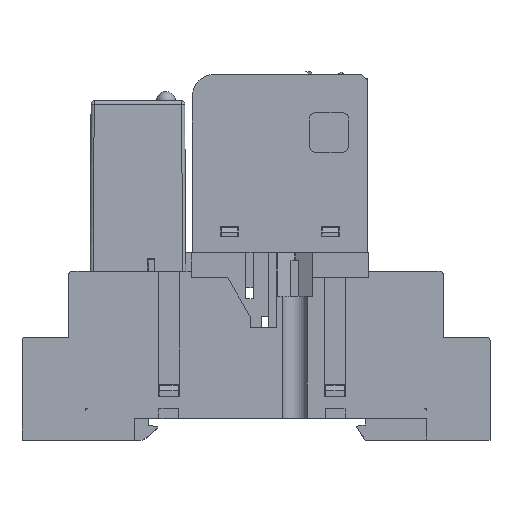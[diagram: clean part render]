
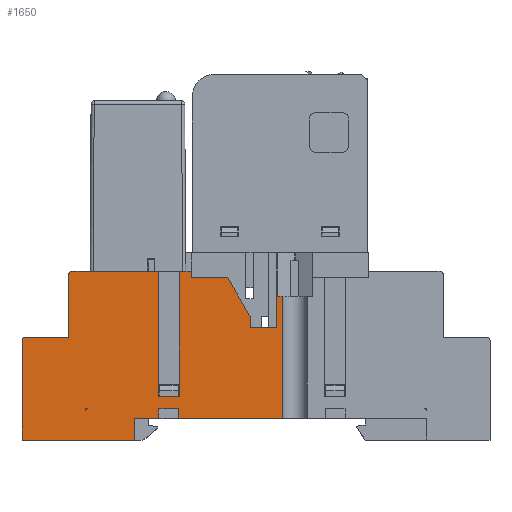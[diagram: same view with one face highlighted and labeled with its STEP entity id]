
A CAD part, top view. The second image highlights one B-rep face of the part: STEP entity #1650.
In plain terms, the highlighted planar face has unit normal (0, 0, 1).
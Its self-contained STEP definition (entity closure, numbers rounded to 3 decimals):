
#1650=ADVANCED_FACE('',(#27638,#27640),#27642,.T.);
#27638=FACE_BOUND('',#27639,.T.);
#27639=EDGE_LOOP('',(#51688,#51689,#51690,#51691,#51692,#51693,#51694,#51695,#51696,
#51697,#51698,#51699,#51700,#51701,#51702,#51703,#51704,#51705,#51706,#51707,#51708,
#51709,#51710,#51711,#51712));
#27640=FACE_BOUND('',#27641,.T.);
#27641=EDGE_LOOP('',(#51713,#51714,#51715));
#27642=PLANE('',#27643);
#27643=AXIS2_PLACEMENT_3D('',#27644,#27645,#27646);
#27644=CARTESIAN_POINT('',(-43.65,0.,15.));
#27645=DIRECTION('',(0.,0.,1.));
#27646=DIRECTION('',(1.,0.,0.));
#51688=ORIENTED_EDGE('',*,*,#67424,.T.);
#51689=ORIENTED_EDGE('',*,*,#67425,.T.);
#51690=ORIENTED_EDGE('',*,*,#67426,.T.);
#51691=ORIENTED_EDGE('',*,*,#67017,.F.);
#51692=ORIENTED_EDGE('',*,*,#67423,.F.);
#51693=ORIENTED_EDGE('',*,*,#67427,.T.);
#51694=ORIENTED_EDGE('',*,*,#67428,.T.);
#51695=ORIENTED_EDGE('',*,*,#67429,.F.);
#51696=ORIENTED_EDGE('',*,*,#67430,.F.);
#51697=ORIENTED_EDGE('',*,*,#67431,.T.);
#51698=ORIENTED_EDGE('',*,*,#67432,.T.);
#51699=ORIENTED_EDGE('',*,*,#67433,.F.);
#51700=ORIENTED_EDGE('',*,*,#67434,.T.);
#51701=ORIENTED_EDGE('',*,*,#67435,.T.);
#51702=ORIENTED_EDGE('',*,*,#67436,.T.);
#51703=ORIENTED_EDGE('',*,*,#67437,.F.);
#51704=ORIENTED_EDGE('',*,*,#67438,.T.);
#51705=ORIENTED_EDGE('',*,*,#67439,.F.);
#51706=ORIENTED_EDGE('',*,*,#67440,.T.);
#51707=ORIENTED_EDGE('',*,*,#67441,.T.);
#51708=ORIENTED_EDGE('',*,*,#67442,.T.);
#51709=ORIENTED_EDGE('',*,*,#67443,.T.);
#51710=ORIENTED_EDGE('',*,*,#67444,.T.);
#51711=ORIENTED_EDGE('',*,*,#67445,.T.);
#51712=ORIENTED_EDGE('',*,*,#67021,.F.);
#51713=ORIENTED_EDGE('',*,*,#67446,.T.);
#51714=ORIENTED_EDGE('',*,*,#67447,.T.);
#51715=ORIENTED_EDGE('',*,*,#67448,.F.);
#67017=EDGE_CURVE('',#75335,#75337,#75338,.T.);
#67021=EDGE_CURVE('',#75343,#75345,#75346,.T.);
#67423=EDGE_CURVE('',#76036,#75335,#76038,.F.);
#67424=EDGE_CURVE('',#75343,#76039,#76040,.F.);
#67425=EDGE_CURVE('',#76039,#76041,#76042,.F.);
#67426=EDGE_CURVE('',#76041,#75337,#76043,.F.);
#67427=EDGE_CURVE('',#76036,#76044,#76045,.F.);
#67428=EDGE_CURVE('',#76044,#76046,#76047,.T.);
#67429=EDGE_CURVE('',#76048,#76046,#76049,.F.);
#67430=EDGE_CURVE('',#76050,#76048,#76051,.T.);
#67431=EDGE_CURVE('',#76050,#76052,#76053,.T.);
#67432=EDGE_CURVE('',#76052,#76054,#76055,.T.);
#67433=EDGE_CURVE('',#76056,#76054,#76057,.T.);
#67434=EDGE_CURVE('',#76056,#76058,#76059,.F.);
#67435=EDGE_CURVE('',#76058,#76060,#76061,.F.);
#67436=EDGE_CURVE('',#76060,#76062,#76063,.F.);
#67437=EDGE_CURVE('',#76064,#76062,#76065,.T.);
#67438=EDGE_CURVE('',#76064,#76066,#76067,.T.);
#67439=EDGE_CURVE('',#76068,#76066,#76069,.T.);
#67440=EDGE_CURVE('',#76068,#76070,#76071,.F.);
#67441=EDGE_CURVE('',#76070,#76072,#76073,.F.);
#67442=EDGE_CURVE('',#76072,#76074,#76075,.F.);
#67443=EDGE_CURVE('',#76074,#76076,#76077,.F.);
#67444=EDGE_CURVE('',#76076,#76078,#76079,.F.);
#67445=EDGE_CURVE('',#76078,#75345,#76080,.F.);
#67446=EDGE_CURVE('',#76081,#76082,#76083,.F.);
#67447=EDGE_CURVE('',#76082,#76084,#76085,.F.);
#67448=EDGE_CURVE('',#76081,#76084,#76086,.F.);
#75335=VERTEX_POINT('',#89320);
#75337=VERTEX_POINT('',#89324);
#75338=LINE('',#89325,#89326);
#75343=VERTEX_POINT('',#89336);
#75345=VERTEX_POINT('',#89340);
#75346=LINE('',#89341,#89342);
#76036=VERTEX_POINT('',#90879);
#76038=CIRCLE('',#90883,0.5);
#76039=VERTEX_POINT('',#90887);
#76040=LINE('',#90888,#90889);
#76041=VERTEX_POINT('',#90891);
#76042=LINE('',#90892,#90893);
#76043=LINE('',#90895,#90896);
#76044=VERTEX_POINT('',#90898);
#76045=LINE('',#90899,#90900);
#76046=VERTEX_POINT('',#90902);
#76047=LINE('',#90903,#90904);
#76048=VERTEX_POINT('',#90906);
#76049=CIRCLE('',#90907,0.5);
#76050=VERTEX_POINT('',#90911);
#76051=LINE('',#90912,#90913);
#76052=VERTEX_POINT('',#90915);
#76053=LINE('',#90916,#90917);
#76054=VERTEX_POINT('',#90919);
#76055=LINE('',#90920,#90921);
#76056=VERTEX_POINT('',#90923);
#76057=LINE('',#90924,#90925);
#76058=VERTEX_POINT('',#90927);
#76059=LINE('',#90928,#90929);
#76060=VERTEX_POINT('',#90931);
#76061=LINE('',#90932,#90933);
#76062=VERTEX_POINT('',#90935);
#76063=LINE('',#90936,#90937);
#76064=VERTEX_POINT('',#90939);
#76065=LINE('',#90940,#90941);
#76066=VERTEX_POINT('',#90943);
#76067=LINE('',#90944,#90945);
#76068=VERTEX_POINT('',#90947);
#76069=LINE('',#90948,#90949);
#76070=VERTEX_POINT('',#90951);
#76071=LINE('',#90952,#90953);
#76072=VERTEX_POINT('',#90955);
#76073=LINE('',#90956,#90957);
#76074=VERTEX_POINT('',#90959);
#76075=LINE('',#90960,#90961);
#76076=VERTEX_POINT('',#90963);
#76077=LINE('',#90964,#90965);
#76078=VERTEX_POINT('',#90967);
#76079=LINE('',#90968,#90969);
#76080=LINE('',#90971,#90972);
#76081=VERTEX_POINT('',#90974);
#76082=VERTEX_POINT('',#90975);
#76083=LINE('',#90976,#90977);
#76084=VERTEX_POINT('',#90979);
#76085=LINE('',#90980,#90981);
#76086=CIRCLE('',#90983,0.3);
#89320=CARTESIAN_POINT('',(-35.65,27.,15.));
#89324=CARTESIAN_POINT('',(-21.85,27.,15.));
#89325=CARTESIAN_POINT('',(-35.65,27.,15.));
#89326=VECTOR('',#89327,1.);
#89327=DIRECTION('',(1.,0.,0.));
#89336=CARTESIAN_POINT('',(-18.45,27.,15.));
#89340=CARTESIAN_POINT('',(-16.55,27.,15.));
#89341=CARTESIAN_POINT('',(-18.45,27.,15.));
#89342=VECTOR('',#89343,1.);
#89343=DIRECTION('',(1.,0.,0.));
#90879=CARTESIAN_POINT('',(-36.15,26.5,15.));
#90883=AXIS2_PLACEMENT_3D('',#90884,#90885,#90886);
#90884=CARTESIAN_POINT('',(-35.65,26.5,15.));
#90885=DIRECTION('',(0.,-0.,1.));
#90886=DIRECTION('',(0.,1.,0.));
#90887=CARTESIAN_POINT('',(-18.45,7.,15.));
#90888=CARTESIAN_POINT('',(-18.45,7.,15.));
#90889=VECTOR('',#90890,1.);
#90890=DIRECTION('',(0.,1.,0.));
#90891=CARTESIAN_POINT('',(-21.85,7.,15.));
#90892=CARTESIAN_POINT('',(-21.85,7.,15.));
#90893=VECTOR('',#90894,1.);
#90894=DIRECTION('',(1.,0.,0.));
#90895=CARTESIAN_POINT('',(-21.85,27.,15.));
#90896=VECTOR('',#90897,1.);
#90897=DIRECTION('',(0.,-1.,0.));
#90898=CARTESIAN_POINT('',(-36.15,16.5,15.));
#90899=CARTESIAN_POINT('',(-36.15,16.5,15.));
#90900=VECTOR('',#90901,1.);
#90901=DIRECTION('',(0.,1.,0.));
#90902=CARTESIAN_POINT('',(-43.15,16.5,15.));
#90903=CARTESIAN_POINT('',(-36.15,16.5,15.));
#90904=VECTOR('',#90905,1.);
#90905=DIRECTION('',(-1.,0.,0.));
#90906=CARTESIAN_POINT('',(-43.65,16.,15.));
#90907=AXIS2_PLACEMENT_3D('',#90908,#90909,#90910);
#90908=CARTESIAN_POINT('',(-43.15,16.,15.));
#90909=DIRECTION('',(0.,-0.,1.));
#90910=DIRECTION('',(0.,1.,0.));
#90911=CARTESIAN_POINT('',(-43.65,0.,15.));
#90912=CARTESIAN_POINT('',(-43.65,0.,15.));
#90913=VECTOR('',#90914,1.);
#90914=DIRECTION('',(0.,1.,0.));
#90915=CARTESIAN_POINT('',(-25.65,0.,15.));
#90916=CARTESIAN_POINT('',(-43.65,0.,15.));
#90917=VECTOR('',#90918,1.);
#90918=DIRECTION('',(1.,0.,0.));
#90919=CARTESIAN_POINT('',(-25.65,3.5,15.));
#90920=CARTESIAN_POINT('',(-25.65,0.,15.));
#90921=VECTOR('',#90922,1.);
#90922=DIRECTION('',(0.,1.,0.));
#90923=CARTESIAN_POINT('',(-21.75,3.5,15.));
#90924=CARTESIAN_POINT('',(-21.75,3.5,15.));
#90925=VECTOR('',#90926,1.);
#90926=DIRECTION('',(-1.,0.,0.));
#90927=CARTESIAN_POINT('',(-21.75,5.,15.));
#90928=CARTESIAN_POINT('',(-21.75,5.,15.));
#90929=VECTOR('',#90930,1.);
#90930=DIRECTION('',(0.,-1.,0.));
#90931=CARTESIAN_POINT('',(-18.55,5.,15.));
#90932=CARTESIAN_POINT('',(-18.55,5.,15.));
#90933=VECTOR('',#90934,1.);
#90934=DIRECTION('',(-1.,0.,0.));
#90935=CARTESIAN_POINT('',(-18.55,3.5,15.));
#90936=CARTESIAN_POINT('',(-18.55,3.5,15.));
#90937=VECTOR('',#90938,1.);
#90938=DIRECTION('',(0.,1.,0.));
#90939=CARTESIAN_POINT('',(-2.,3.5,15.));
#90940=CARTESIAN_POINT('',(-2.,3.5,15.));
#90941=VECTOR('',#90942,1.);
#90942=DIRECTION('',(-1.,0.,0.));
#90943=CARTESIAN_POINT('',(-2.,23.,15.));
#90944=CARTESIAN_POINT('',(-2.,3.5,15.));
#90945=VECTOR('',#90946,1.);
#90946=DIRECTION('',(0.,1.,0.));
#90947=CARTESIAN_POINT('',(-2.9,23.,15.));
#90948=CARTESIAN_POINT('',(-2.9,23.,15.));
#90949=VECTOR('',#90950,1.);
#90950=DIRECTION('',(1.,0.,0.));
#90951=CARTESIAN_POINT('',(-2.9,18.,15.));
#90952=CARTESIAN_POINT('',(-2.9,18.,15.));
#90953=VECTOR('',#90954,1.);
#90954=DIRECTION('',(0.,1.,0.));
#90955=CARTESIAN_POINT('',(-7.15,18.,15.));
#90956=CARTESIAN_POINT('',(-7.15,18.,15.));
#90957=VECTOR('',#90958,1.);
#90958=DIRECTION('',(1.,0.,0.));
#90959=CARTESIAN_POINT('',(-7.15,19.8,15.));
#90960=CARTESIAN_POINT('',(-7.15,19.8,15.));
#90961=VECTOR('',#90962,1.);
#90962=DIRECTION('',(0.,-1.,0.));
#90963=CARTESIAN_POINT('',(-10.73,26.,15.));
#90964=CARTESIAN_POINT('',(-10.73,26.,15.));
#90965=VECTOR('',#90966,1.);
#90966=DIRECTION('',(0.5,-0.866,0.));
#90967=CARTESIAN_POINT('',(-16.55,26.,15.));
#90968=CARTESIAN_POINT('',(-16.55,26.,15.));
#90969=VECTOR('',#90970,1.);
#90970=DIRECTION('',(1.,0.,0.));
#90971=CARTESIAN_POINT('',(-16.55,27.,15.));
#90972=VECTOR('',#90973,1.);
#90973=DIRECTION('',(0.,-1.,0.));
#90974=CARTESIAN_POINT('',(-33.45,4.7,15.));
#90975=CARTESIAN_POINT('',(-33.45,5.,15.));
#90976=CARTESIAN_POINT('',(-33.45,5.,15.));
#90977=VECTOR('',#90978,1.);
#90978=DIRECTION('',(0.,-1.,0.));
#90979=CARTESIAN_POINT('',(-33.15,5.,15.));
#90980=CARTESIAN_POINT('',(-33.15,5.,15.));
#90981=VECTOR('',#90982,1.);
#90982=DIRECTION('',(-1.,0.,0.));
#90983=AXIS2_PLACEMENT_3D('',#90984,#90985,#90986);
#90984=CARTESIAN_POINT('',(-33.15,4.7,15.));
#90985=DIRECTION('',(0.,-0.,1.));
#90986=DIRECTION('',(0.,1.,0.));
